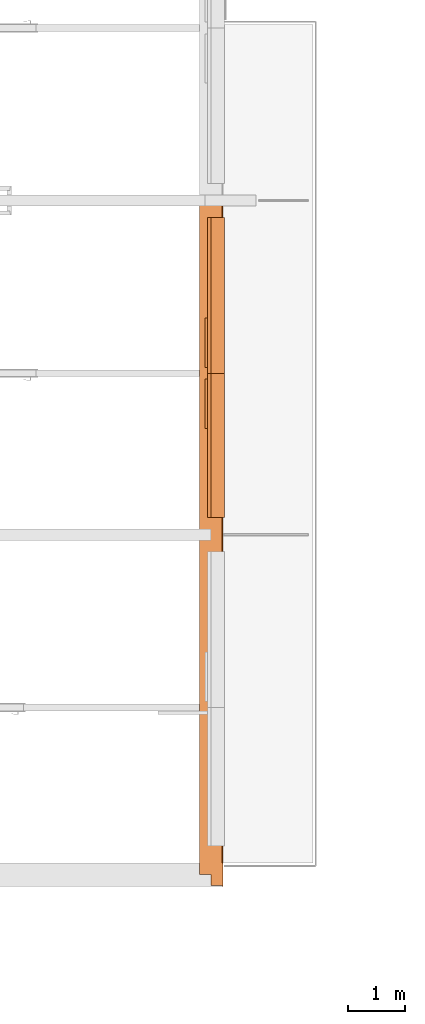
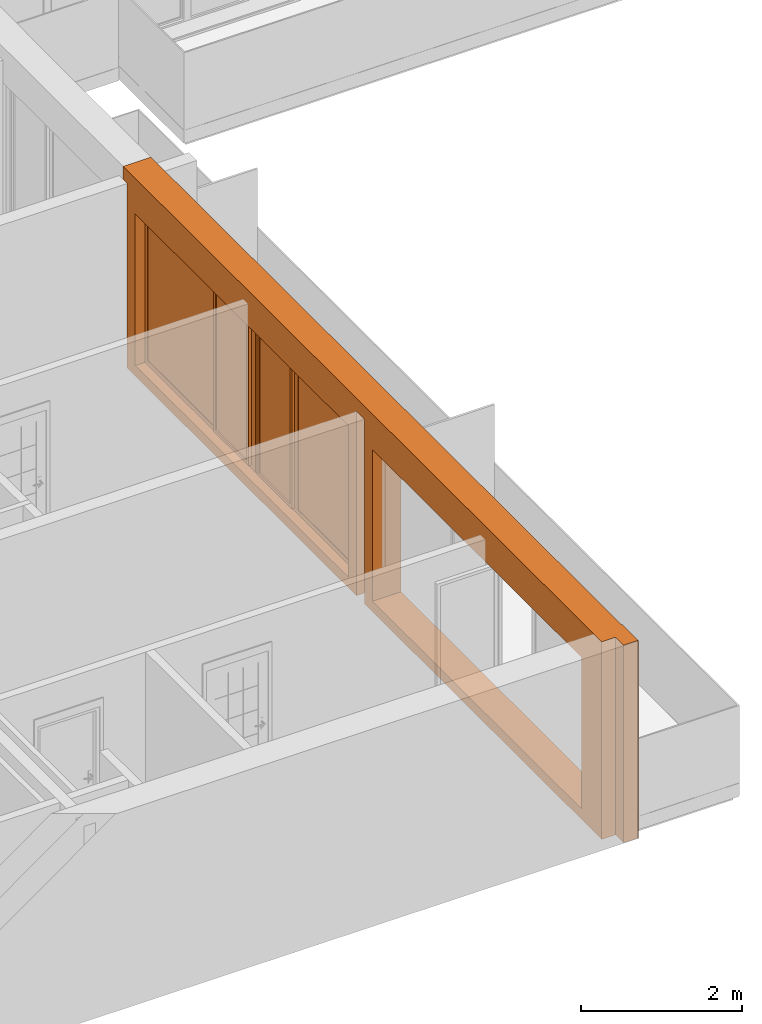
# One storey, part 44 of 64: 3 proxies, 4 openings.
"""IFC2X3 building model written with IfcOpenShell, lengths in millimetres."""

from ifc_helpers import new_model, entity, si_unit, converted_unit, derived_unit, money_unit, direction, frame, origin_with_axes, origin_2d_with_axis, place, context, subcontext, project, spatial, rectangle, extrude, open_shell, faceted_brep, surface_model, source, transform, mapped, material, material_list, type_object, element, fill, save


model = new_model("IFC2X3")

# Units and contexts
model_context = context("Model", 3, precision=0.01, world=origin_with_axes(), true_north=direction((0.34421633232, 0.938890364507)))
body_context = subcontext(model_context, "Body", "Model", "MODEL_VIEW")
ifc_project = project(units=[si_unit("LENGTHUNIT", "METRE", prefix="MILLI"), si_unit("AREAUNIT", "SQUARE_METRE"), si_unit("VOLUMEUNIT", "CUBIC_METRE"), converted_unit("PLANEANGLEUNIT", "DEGREE", entity("IfcPlaneAngleMeasure", 0.0174532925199), si_unit("PLANEANGLEUNIT", "RADIAN"), dimensions=[0, 0, 0, 0, 0, 0, 0]), si_unit("SOLIDANGLEUNIT", "STERADIAN"), money_unit("USD"), converted_unit("TIMEUNIT", "Year", entity("IfcTimeMeasure", 31556926.0), si_unit("TIMEUNIT", "SECOND"), dimensions=[0, 0, 1, 0, 0, 0, 0]), si_unit("MASSUNIT", "GRAM", prefix="KILO"), si_unit("THERMODYNAMICTEMPERATUREUNIT", "DEGREE_CELSIUS"), si_unit("LUMINOUSINTENSITYUNIT", "LUMEN"), si_unit("ENERGYUNIT", "JOULE", prefix="MEGA"), derived_unit("THERMALCONDUCTANCEUNIT", [(si_unit("POWERUNIT", "WATT"), 1), (si_unit("LENGTHUNIT", "METRE"), -1), (si_unit("THERMODYNAMICTEMPERATUREUNIT", "KELVIN"), -1)]), derived_unit("SPECIFICHEATCAPACITYUNIT", [(si_unit("ENERGYUNIT", "JOULE"), 1), (si_unit("MASSUNIT", "GRAM", prefix="KILO"), -1), (si_unit("THERMODYNAMICTEMPERATUREUNIT", "KELVIN"), -1)]), derived_unit("MASSDENSITYUNIT", [(si_unit("MASSUNIT", "GRAM", prefix="KILO"), 1), (si_unit("VOLUMEUNIT", "CUBIC_METRE"), -1)])], contexts=[model_context])

# Site, building, storey
site_placement = place(None, origin_with_axes())
site = spatial("IfcSite", under=ifc_project, at=site_placement, Name="USTRONIE MORSKIE", CompositionType="ELEMENT")
building_placement = place(site_placement, origin_with_axes())
building = spatial("IfcBuilding", under=site, at=building_placement, Name="Budynek", CompositionType="ELEMENT")
storey_placement = place(building_placement, frame((0.0, 0.0, 7000.0), z_axis=(0.0, 0.0, 1.0), x_axis=(1.0, 0.0, 0.0)))
storey = spatial("IfcBuildingStorey", under=building, at=storey_placement, Name="PIĘTRO 2", CompositionType="ELEMENT", Elevation=7000.0)

# Proxies, openings
ifc_material_1 = material(Name="Beton konstrukcyjny B25")
ifc_material_2 = material(Name="Wełna ELEW")
ifc_material_3 = material(Name="Tynk zewnętrzny")
ifc_material_list = material_list([ifc_material_1, ifc_material_2, ifc_material_3])
building_element_proxy_type_1 = type_object("IfcBuildingElementProxyType", Name="20+20 410", PredefinedType="NOTDEFINED")
proxy_1_placement = place(storey_placement, frame((367067.957311, 709201.199036, -160.0), z_axis=(0.0, 0.0, 1.0), x_axis=(-2.10080135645e-06, 0.999999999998, 0.0)))
proxy_1 = element("IfcBuildingElementProxy", 1, at=proxy_1_placement, inside=storey, type_object=building_element_proxy_type_1, material=ifc_material_list, Name="SZ-01", context=body_context, shape_type="Brep", body=[
    faceted_brep([(5799.99975733, -100.0, 0.0), (5799.99975733, -100.0, 2800.0), (5999.99975734, -100.0, 2800.0), (5999.99975734, -100.0, 0.0), (11699.9997899, -100.0, 0.0), (11699.9997899, -100.0, 2800.0), (11800.0, -100.0, 2800.0), (11800.0, -100.0, 3000.0), (-100.00021008, -100.0, 3000.0), (-100.00021008, -100.0, 0.0), (5800.0001775, 100.0, 0.0), (5800.0001775, 100.0, 2800.0), (6000.0001775, 100.0, 2800.0), (6000.0001775, 100.0, 0.0), (11700.0002101, 100.0, 0.0), (11700.0, 7.00267150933e-05, 0.0), (11700.0, 7.00267150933e-05, 2800.0), (11800.0, 7.00267150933e-05, 2800.0), (11800.0, 100.0, 2800.0), (11800.0, 100.0, 3000.0), (-99.99978992, 100.0, 3000.0), (-99.99978992, 100.0, 0.0), (11700.0002101, 100.0, 2800.0)], [[[0, 1, 2, 3, 4, 5, 6, 7, 8, 9]], [[1, 0, 10, 11]], [[2, 1, 11, 12]], [[3, 2, 12, 13]], [[3, 13, 14, 15, 4]], [[5, 4, 15, 16]], [[17, 6, 5, 16]], [[17, 18, 19, 7, 6]], [[8, 7, 19, 20]], [[9, 8, 20, 21]], [[10, 0, 9, 21]], [[11, 10, 21, 20, 19, 18, 22, 14, 13, 12]], [[15, 14, 22, 16]], [[18, 17, 16, 22]]]),
    faceted_brep([(-300.000630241, -300.0, 0.0), (11699.9993698, -300.0, 0.0), (11699.9993698, -300.0, 2800.0), (11800.0, -300.0, 2800.0), (11800.0, -300.0, 3000.0), (-300.000630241, -300.0, 3000.0), (-300.000210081, -100.0, 0.0), (11699.9997899, -100.0, 0.0), (11699.9997899, -100.0, 2800.0), (11800.0, -100.0, 2800.0), (11800.0, -100.0, 3000.0), (-300.000210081, -100.0, 3000.0)], [[[0, 1, 2, 3, 4, 5]], [[6, 7, 1, 0]], [[8, 2, 1, 7]], [[8, 9, 3, 2]], [[4, 3, 9, 10]], [[11, 5, 4, 10]], [[6, 0, 5, 11]], [[9, 8, 7, 6, 11, 10]]]),
    faceted_brep([(11699.9993488, -310.0, 2800.0), (99.9993487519, -310.0, 2800.0), (99.9993487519, -310.0, 3000.0), (-310.000651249, -310.0, 3000.0), (-310.000651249, -310.0, 0.0), (99.9993487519, -310.0, 0.0), (99.9993487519, -310.0, 5.0), (99.9993487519, -310.0, 85.0), (99.9993487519, -310.0, 110.0), (11699.9993488, -310.0, 110.0), (11699.9993698, -300.000632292, 2800.0), (99.999369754, -300.00281711, 2800.0), (99.999369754, -300.00281711, 3000.0), (-310.000630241, -300.0, 3000.0), (-310.000630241, -300.0, 0.0), (99.9993697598, -300.000048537, 0.0), (99.9993697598, -300.000048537, 5.0), (99.9993697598, -300.000048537, 85.0), (99.9993697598, -300.000048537, 110.0), (11699.9993698, -299.997863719, 110.0)], [[[0, 1, 2, 3, 4, 5, 6, 7, 8, 9]], [[1, 0, 10, 11]], [[12, 2, 1, 11]], [[2, 12, 13, 3]], [[14, 4, 3, 13]], [[15, 5, 4, 14]], [[16, 6, 5, 15]], [[17, 7, 6, 16]], [[8, 7, 17, 18]], [[9, 8, 18, 19]], [[10, 0, 9, 19]], [[11, 10, 19, 18, 17, 16, 15, 14, 13, 12]]]),
])
opening_1_placement = place(proxy_1_placement, frame((10124.9903356, 1.13686837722e-10, 160.0), z_axis=(0.0, 0.0, 1.0), x_axis=(1.0, 0.0, 0.0)))
opening_1 = element("IfcOpeningElement", 2, at=opening_1_placement, cuts=proxy_1, Name="Wz.05", context=body_context, shape_type="SweptSolid", body=[
    extrude(rectangle(XDim=2749.94323081, YDim=2300.0, at=origin_2d_with_axis()), frame((0.0, -100.0, 1150.0), z_axis=(0.0, -1.0, 0.0), x_axis=(-1.0, 0.0, 0.0)), (0.0, 0.0, 1.0), 620.0),
    extrude(rectangle(XDim=2749.94323081, YDim=2300.0, at=origin_2d_with_axis()), frame((-1.13686837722e-10, -100.0, 1150.0), z_axis=(0.0, 1.0, 0.0), x_axis=(-1.0, 0.0, 0.0)), (0.0, 0.0, 1.0), 610.0),
])
opening_2_placement = place(proxy_1_placement, frame((7475.0069156, 1.13686837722e-10, 160.0), z_axis=(0.0, 0.0, 1.0), x_axis=(1.0, 0.0, 0.0)))
opening_2 = element("IfcOpeningElement", 3, at=opening_2_placement, cuts=proxy_1, Name="Wz.05", context=body_context, shape_type="SweptSolid", body=[
    extrude(rectangle(XDim=2550.02360912, YDim=2300.0, at=origin_2d_with_axis()), frame((-1.13686837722e-10, -100.0, 1150.0), z_axis=(0.0, 1.0, 0.0), x_axis=(1.0, 0.0, 0.0)), (0.0, 0.0, -1.0), 620.0),
    extrude(rectangle(XDim=2550.02360912, YDim=2300.0, at=origin_2d_with_axis()), frame((-1.13686837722e-10, -100.0, 1150.0), z_axis=(0.0, -1.0, 0.0), x_axis=(1.0, 0.0, 0.0)), (0.0, 0.0, -1.0), 610.0),
])
opening_3_placement = place(proxy_1_placement, frame((4225.01241069, 1.13686837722e-10, 160.0), z_axis=(0.0, 0.0, 1.0), x_axis=(1.0, 0.0, 0.0)))
element("IfcOpeningElement", 4, at=opening_3_placement, cuts=proxy_1, Name="Wz.05", context=body_context, shape_type="SweptSolid", body=[
    extrude(rectangle(XDim=2749.98566828, YDim=2300.0, at=origin_2d_with_axis()), frame((2.27373675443e-10, -100.0, 1150.0), z_axis=(0.0, -1.0, 0.0), x_axis=(-1.0, 0.0, 0.0)), (0.0, 0.0, 1.0), 620.0),
    extrude(rectangle(XDim=2749.98566828, YDim=2300.0, at=origin_2d_with_axis()), frame((1.13686837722e-10, -100.0, 1150.0), z_axis=(0.0, 1.0, 0.0), x_axis=(-1.0, 0.0, 0.0)), (0.0, 0.0, 1.0), 610.0),
])
opening_4_placement = place(proxy_1_placement, frame((1625.00742279, 1.13686837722e-10, 160.0), z_axis=(0.0, 0.0, 1.0), x_axis=(1.0, 0.0, 0.0)))
element("IfcOpeningElement", 5, at=opening_4_placement, cuts=proxy_1, Name="Wz.05", context=body_context, shape_type="SweptSolid", body=[
    extrude(rectangle(XDim=2450.02430751, YDim=2300.0, at=origin_2d_with_axis()), frame((0.0, -100.0, 1150.0), z_axis=(0.0, 1.0, 0.0), x_axis=(1.0, 0.0, 0.0)), (0.0, 0.0, -1.0), 620.0),
    extrude(rectangle(XDim=2450.02430751, YDim=2300.0, at=origin_2d_with_axis()), frame((0.0, -100.0, 1150.0), z_axis=(0.0, -1.0, 0.0), x_axis=(1.0, 0.0, 0.0)), (0.0, 0.0, -1.0), 610.0),
])
building_element_proxy_type_2 = type_object("IfcBuildingElementProxyType", Name="Okno podwójne 23", PredefinedType="NOTDEFINED")
shared_shape_1 = source(origin_with_axes(), body_context, "Body", "SurfaceModel", [
    surface_model("IfcShellBasedSurfaceModel", [(1374.9716154, -61.0, 50.0), (-1374.9716154, -61.0, 50.0), (-1374.9716154, -61.0, 40.0), (1374.9716154, -61.0, 40.0), (-1374.9716154, -300.0, 28.5714285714), (1374.9716154, -300.0, 28.5714285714), (-1374.9716154, -300.0, 8.57142857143), (1374.9716154, -300.0, 8.57142857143), (-1374.9716154, -290.0, 18.5714285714), (1374.9716154, -290.0, 18.5714285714)], [open_shell([[[0, 1, 2, 3]], [[3, 2, 4, 5]], [[5, 4, 6, 7]], [[7, 6, 8, 9]]])]),
    faceted_brep([(-1249.9716154, -20.0, 2235.0), (-1269.9716154, -20.0, 2235.0), (-1269.9716154, 0.0, 2235.0), (-1374.9716154, 0.0, 2235.0), (-1374.9716154, -60.0, 2235.0), (-1249.9716154, -60.0, 2235.0), (-1249.9716154, -20.0, 65.0), (-1269.9716154, -20.0, 65.0), (-1269.9716154, 0.0, 65.0), (-1374.9716154, 0.0, 65.0), (-1374.9716154, -60.0, 65.0), (-1249.9716154, -60.0, 65.0)], [[[0, 1, 2, 3, 4, 5]], [[1, 0, 6, 7]], [[8, 2, 1, 7]], [[2, 8, 9, 3]], [[9, 10, 4, 3]], [[10, 11, 5, 4]], [[6, 0, 5, 11]], [[7, 6, 11, 10, 9, 8]]]),
    faceted_brep([(-399.971615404, 0.0, 2235.0), (-399.971615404, -20.0, 2235.0), (-419.971615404, -20.0, 2235.0), (-419.971615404, -60.0, 2235.0), (-319.971615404, -60.0, 2235.0), (-319.971615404, 0.0, 2235.0), (-399.971615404, 0.0, 65.0), (-399.971615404, -20.0, 65.0), (-419.971615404, -20.0, 65.0), (-419.971615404, -60.0, 65.0), (-319.971615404, -60.0, 65.0), (-319.971615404, 0.0, 65.0)], [[[0, 1, 2, 3, 4, 5]], [[1, 0, 6, 7]], [[8, 2, 1, 7]], [[2, 8, 9, 3]], [[9, 10, 4, 3]], [[5, 4, 10, 11]], [[6, 0, 5, 11]], [[7, 6, 11, 10, 9, 8]]]),
    faceted_brep([(-1249.9716154, -20.0, 65.0), (-1269.9716154, -20.0, 65.0), (-1269.9716154, 0.0, 65.0), (-1374.9716154, 0.0, 65.0), (-1374.9716154, -60.0, 65.0), (-1249.9716154, -60.0, 65.0), (-419.971615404, -20.0, 65.0), (-399.971615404, -20.0, 65.0), (-399.971615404, -20.0, 45.0), (-1269.9716154, -20.0, 45.0), (-1269.9716154, 0.0, 45.0), (-399.971615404, 0.0, 45.0), (-399.971615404, 0.0, 65.0), (-319.971615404, 0.0, 65.0), (1309.9716154, 0.0, 65.0), (1374.9716154, 0.0, 65.0), (1374.9716154, 0.0, 0.0), (-1374.9716154, 0.0, 0.0), (-1374.9716154, -60.0, 0.0), (1374.9716154, -60.0, 65.0), (1309.9716154, -60.0, 65.0), (-319.971615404, -60.0, 65.0), (-419.971615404, -60.0, 65.0), (1374.9716154, -60.0, 0.0)], [[[0, 1, 2, 3, 4, 5]], [[1, 0, 6, 7, 8, 9]], [[10, 2, 1, 9]], [[11, 12, 13, 14, 15, 16, 17, 3, 2, 10]], [[17, 18, 4, 3]], [[19, 20, 21, 22, 5, 4, 18, 23]], [[6, 0, 5, 22]], [[7, 6, 22, 21, 13, 12]], [[7, 12, 11, 8]], [[11, 10, 9, 8]], [[13, 21, 20, 14]], [[14, 20, 19, 15]], [[15, 19, 23, 16]], [[16, 23, 18, 17]]]),
    faceted_brep([(-399.971615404, 0.0, 2235.0), (-399.971615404, 0.0, 2255.0), (-1269.9716154, 0.0, 2255.0), (-1269.9716154, 0.0, 2235.0), (-1374.9716154, 0.0, 2235.0), (-1374.9716154, 0.0, 2300.0), (1374.9716154, 0.0, 2300.0), (1374.9716154, 0.0, 2235.0), (1309.9716154, 0.0, 2235.0), (-319.971615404, 0.0, 2235.0), (-399.971615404, -20.0, 2235.0), (-399.971615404, -20.0, 2255.0), (-1269.9716154, -20.0, 2255.0), (-1269.9716154, -20.0, 2235.0), (-1249.9716154, -20.0, 2235.0), (-1249.9716154, -60.0, 2235.0), (-1374.9716154, -60.0, 2235.0), (-1374.9716154, -60.0, 2300.0), (1374.9716154, -60.0, 2300.0), (1374.9716154, -60.0, 2235.0), (1309.9716154, -60.0, 2235.0), (-319.971615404, -60.0, 2235.0), (-419.971615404, -60.0, 2235.0), (-419.971615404, -20.0, 2235.0)], [[[0, 1, 2, 3, 4, 5, 6, 7, 8, 9]], [[1, 0, 10, 11]], [[2, 1, 11, 12]], [[3, 2, 12, 13]], [[13, 14, 15, 16, 4, 3]], [[4, 16, 17, 5]], [[5, 17, 18, 6]], [[6, 18, 19, 7]], [[7, 19, 20, 8]], [[8, 20, 21, 9]], [[10, 0, 9, 21, 22, 23]], [[14, 13, 12, 11, 10, 23]], [[14, 23, 22, 15]], [[22, 21, 20, 19, 18, 17, 16, 15]]]),
    faceted_brep([(1309.9716154, -60.0, 2235.0), (1374.9716154, -60.0, 2235.0), (1374.9716154, 0.0, 2235.0), (1309.9716154, 0.0, 2235.0), (1309.9716154, -60.0, 65.0), (1374.9716154, -60.0, 65.0), (1374.9716154, 0.0, 65.0), (1309.9716154, 0.0, 65.0)], [[[0, 1, 2, 3]], [[0, 4, 5, 1]], [[1, 5, 6, 2]], [[3, 2, 6, 7]], [[4, 0, 3, 7]], [[5, 4, 7, 6]]]),
    surface_model("IfcShellBasedSurfaceModel", [(1309.9716154, -30.0, 65.0), (1309.9716154, -30.0, 2235.0), (-319.971615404, -30.0, 2235.0), (-319.971615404, -30.0, 65.0)], [open_shell([[[0, 1, 2, 3]]])]),
    surface_model("IfcShellBasedSurfaceModel", [(1309.9716154, -10.0, 65.0), (-319.971615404, -10.0, 65.0), (-319.971615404, -10.0, 2235.0), (1309.9716154, -10.0, 2235.0)], [open_shell([[[0, 1, 2, 3]]])]),
    faceted_brep([(-444.971615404, -20.0, 2210.0), (-399.971615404, -20.0, 2210.0), (-399.971615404, 40.0, 2210.0), (-444.971615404, 40.0, 2210.0), (-444.971615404, -20.0, 90.0), (-399.971615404, -20.0, 90.0), (-399.971615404, 40.0, 90.0), (-444.971615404, 40.0, 90.0)], [[[0, 1, 2, 3]], [[0, 4, 5, 1]], [[1, 5, 6, 2]], [[3, 2, 6, 7]], [[4, 0, 3, 7]], [[5, 4, 7, 6]]]),
    faceted_brep([(-1224.9716154, -20.0, 90.0), (-1269.9716154, -20.0, 90.0), (-1269.9716154, 40.0, 90.0), (-1224.9716154, 40.0, 90.0), (-1224.9716154, -20.0, 2210.0), (-1269.9716154, -20.0, 2210.0), (-1269.9716154, 40.0, 2210.0), (-1224.9716154, 40.0, 2210.0)], [[[0, 1, 2, 3]], [[0, 4, 5, 1]], [[1, 5, 6, 2]], [[3, 2, 6, 7]], [[4, 0, 3, 7]], [[5, 4, 7, 6]]]),
    faceted_brep([(-1269.9716154, -20.0, 45.0), (-1269.9716154, -20.0, 90.0), (-1269.9716154, 40.0, 90.0), (-1269.9716154, 40.0, 45.0), (-399.971615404, -20.0, 45.0), (-399.971615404, -20.0, 90.0), (-444.971615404, -20.0, 90.0), (-1224.9716154, -20.0, 90.0), (-1224.9716154, 40.0, 90.0), (-444.971615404, 40.0, 90.0), (-399.971615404, 40.0, 90.0), (-399.971615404, 40.0, 45.0)], [[[0, 1, 2, 3]], [[0, 4, 5, 6, 7, 1]], [[1, 7, 8, 2]], [[3, 2, 8, 9, 10, 11]], [[4, 0, 3, 11]], [[5, 4, 11, 10]], [[6, 5, 10, 9]], [[7, 6, 9, 8]]]),
    faceted_brep([(-399.971615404, -20.0, 2255.0), (-399.971615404, -20.0, 2210.0), (-399.971615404, 40.0, 2210.0), (-399.971615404, 40.0, 2255.0), (-1269.9716154, -20.0, 2255.0), (-1269.9716154, -20.0, 2210.0), (-1224.9716154, -20.0, 2210.0), (-444.971615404, -20.0, 2210.0), (-444.971615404, 40.0, 2210.0), (-1224.9716154, 40.0, 2210.0), (-1269.9716154, 40.0, 2210.0), (-1269.9716154, 40.0, 2255.0)], [[[0, 1, 2, 3]], [[0, 4, 5, 6, 7, 1]], [[1, 7, 8, 2]], [[3, 2, 8, 9, 10, 11]], [[4, 0, 3, 11]], [[5, 4, 11, 10]], [[6, 5, 10, 9]], [[7, 6, 9, 8]]]),
    surface_model("IfcShellBasedSurfaceModel", [(-444.971615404, 0.0, 90.0), (-444.971615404, 0.0, 2210.0), (-1224.9716154, 0.0, 2210.0), (-1224.9716154, 0.0, 90.0)], [open_shell([[[0, 1, 2, 3]]])]),
    surface_model("IfcShellBasedSurfaceModel", [(-444.971615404, 20.0, 90.0), (-1224.9716154, 20.0, 90.0), (-1224.9716154, 20.0, 2210.0), (-444.971615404, 20.0, 2210.0)], [open_shell([[[0, 1, 2, 3]]])]),
])
proxy_2_placement = place(opening_1_placement, frame((-1374.9716154, -1.13686837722e-10, 0.0), z_axis=(0.0, 0.0, 1.0), x_axis=(1.0, 0.0, 0.0)))
proxy_2 = element("IfcBuildingElementProxy", 6, at=proxy_2_placement, inside=storey, type_object=building_element_proxy_type_2, Name="Wz.05", context=body_context, shape_type="MappedRepresentation", body=[
    mapped(shared_shape_1, transform((1374.9716154, -40.0000000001, 0.0))),
])
fill(opening_1, proxy_2)
shared_shape_2 = source(origin_with_axes(), body_context, "Body", "SurfaceModel", [
    surface_model("IfcShellBasedSurfaceModel", [(-1275.01180456, -61.0, 50.0), (-1275.01180456, -61.0, 40.0), (1275.01180456, -61.0, 40.0), (1275.01180456, -61.0, 50.0), (-1275.01180456, -300.0, 28.5714285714), (1275.01180456, -300.0, 28.5714285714), (-1275.01180456, -300.0, 8.57142857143), (1275.01180456, -300.0, 8.57142857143), (-1275.01180456, -290.0, 18.5714285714), (1275.01180456, -290.0, 18.5714285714)], [open_shell([[[0, 1, 2, 3]], [[1, 4, 5, 2]], [[4, 6, 7, 5]], [[6, 8, 9, 7]]])]),
    faceted_brep([(1150.01180456, -20.0, 2235.0), (1150.01180456, -60.0, 2235.0), (1275.01180456, -60.0, 2235.0), (1275.01180456, 0.0, 2235.0), (1170.01180456, 0.0, 2235.0), (1170.01180456, -20.0, 2235.0), (1150.01180456, -20.0, 65.0), (1150.01180456, -60.0, 65.0), (1275.01180456, -60.0, 65.0), (1275.01180456, 0.0, 65.0), (1170.01180456, 0.0, 65.0), (1170.01180456, -20.0, 65.0)], [[[0, 1, 2, 3, 4, 5]], [[6, 7, 1, 0]], [[8, 2, 1, 7]], [[9, 3, 2, 8]], [[4, 3, 9, 10]], [[10, 11, 5, 4]], [[5, 11, 6, 0]], [[11, 10, 9, 8, 7, 6]]]),
    faceted_brep([(300.01180456, 0.0, 2235.0), (220.01180456, 0.0, 2235.0), (220.01180456, -60.0, 2235.0), (320.01180456, -60.0, 2235.0), (320.01180456, -20.0, 2235.0), (300.01180456, -20.0, 2235.0), (300.01180456, 0.0, 65.0), (220.01180456, 0.0, 65.0), (220.01180456, -60.0, 65.0), (320.01180456, -60.0, 65.0), (320.01180456, -20.0, 65.0), (300.01180456, -20.0, 65.0)], [[[0, 1, 2, 3, 4, 5]], [[6, 7, 1, 0]], [[1, 7, 8, 2]], [[9, 3, 2, 8]], [[4, 3, 9, 10]], [[10, 11, 5, 4]], [[5, 11, 6, 0]], [[11, 10, 9, 8, 7, 6]]]),
    faceted_brep([(1150.01180456, -20.0, 65.0), (1150.01180456, -60.0, 65.0), (1275.01180456, -60.0, 65.0), (1275.01180456, 0.0, 65.0), (1170.01180456, 0.0, 65.0), (1170.01180456, -20.0, 65.0), (320.01180456, -20.0, 65.0), (320.01180456, -60.0, 65.0), (-1275.01180456, -60.0, 65.0), (-1275.01180456, -60.0, 0.0), (1275.01180456, -60.0, 0.0), (220.01180456, -60.0, 65.0), (-1210.01180456, -60.0, 65.0), (1275.01180456, 0.0, 0.0), (300.01180456, 0.0, 45.0), (1170.01180456, 0.0, 45.0), (-1275.01180456, 0.0, 0.0), (-1275.01180456, 0.0, 65.0), (-1210.01180456, 0.0, 65.0), (220.01180456, 0.0, 65.0), (300.01180456, 0.0, 65.0), (1170.01180456, -20.0, 45.0), (300.01180456, -20.0, 45.0), (300.01180456, -20.0, 65.0)], [[[0, 1, 2, 3, 4, 5]], [[6, 7, 1, 0]], [[8, 9, 10, 2, 1, 7, 11, 12]], [[13, 3, 2, 10]], [[14, 15, 4, 3, 13, 16, 17, 18, 19, 20]], [[15, 21, 5, 4]], [[5, 21, 22, 23, 6, 0]], [[23, 20, 19, 11, 7, 6]], [[17, 16, 9, 8]], [[16, 13, 10, 9]], [[19, 18, 12, 11]], [[18, 17, 8, 12]], [[14, 22, 21, 15]], [[23, 22, 14, 20]]]),
    faceted_brep([(300.01180456, 0.0, 2235.0), (220.01180456, 0.0, 2235.0), (-1210.01180456, 0.0, 2235.0), (-1275.01180456, 0.0, 2235.0), (-1275.01180456, 0.0, 2300.0), (1275.01180456, 0.0, 2300.0), (1275.01180456, 0.0, 2235.0), (1170.01180456, 0.0, 2235.0), (1170.01180456, 0.0, 2255.0), (300.01180456, 0.0, 2255.0), (300.01180456, -20.0, 2235.0), (320.01180456, -20.0, 2235.0), (320.01180456, -60.0, 2235.0), (220.01180456, -60.0, 2235.0), (-1210.01180456, -60.0, 2235.0), (-1275.01180456, -60.0, 2235.0), (-1275.01180456, -60.0, 2300.0), (1275.01180456, -60.0, 2300.0), (1275.01180456, -60.0, 2235.0), (1170.01180456, -20.0, 2235.0), (1150.01180456, -60.0, 2235.0), (1150.01180456, -20.0, 2235.0), (1170.01180456, -20.0, 2255.0), (300.01180456, -20.0, 2255.0)], [[[0, 1, 2, 3, 4, 5, 6, 7, 8, 9]], [[10, 11, 12, 13, 1, 0]], [[2, 1, 13, 14]], [[3, 2, 14, 15]], [[4, 3, 15, 16]], [[5, 4, 16, 17]], [[6, 5, 17, 18]], [[19, 7, 6, 18, 20, 21]], [[7, 19, 22, 8]], [[8, 22, 23, 9]], [[9, 23, 10, 0]], [[21, 11, 10, 23, 22, 19]], [[21, 20, 12, 11]], [[12, 20, 18, 17, 16, 15, 14, 13]]]),
    faceted_brep([(-1210.01180456, -60.0, 2235.0), (-1210.01180456, 0.0, 2235.0), (-1275.01180456, 0.0, 2235.0), (-1275.01180456, -60.0, 2235.0), (-1210.01180456, -60.0, 65.0), (-1210.01180456, 0.0, 65.0), (-1275.01180456, 0.0, 65.0), (-1275.01180456, -60.0, 65.0)], [[[0, 1, 2, 3]], [[4, 5, 1, 0]], [[1, 5, 6, 2]], [[3, 2, 6, 7]], [[0, 3, 7, 4]], [[7, 6, 5, 4]]]),
    surface_model("IfcShellBasedSurfaceModel", [(-1210.01180456, -30.0, 65.0), (220.01180456, -30.0, 65.0), (220.01180456, -30.0, 2235.0), (-1210.01180456, -30.0, 2235.0)], [open_shell([[[0, 1, 2, 3]]])]),
    surface_model("IfcShellBasedSurfaceModel", [(-1210.01180456, -10.0, 65.0), (-1210.01180456, -10.0, 2235.0), (220.01180456, -10.0, 2235.0), (220.01180456, -10.0, 65.0)], [open_shell([[[0, 1, 2, 3]]])]),
    faceted_brep([(345.01180456, -20.0, 2210.0), (345.01180456, 40.0, 2210.0), (300.01180456, 40.0, 2210.0), (300.01180456, -20.0, 2210.0), (345.01180456, -20.0, 90.0), (345.01180456, 40.0, 90.0), (300.01180456, 40.0, 90.0), (300.01180456, -20.0, 90.0)], [[[0, 1, 2, 3]], [[4, 5, 1, 0]], [[1, 5, 6, 2]], [[3, 2, 6, 7]], [[0, 3, 7, 4]], [[7, 6, 5, 4]]]),
    faceted_brep([(1125.01180456, -20.0, 90.0), (1125.01180456, 40.0, 90.0), (1170.01180456, 40.0, 90.0), (1170.01180456, -20.0, 90.0), (1125.01180456, -20.0, 2210.0), (1125.01180456, 40.0, 2210.0), (1170.01180456, 40.0, 2210.0), (1170.01180456, -20.0, 2210.0)], [[[0, 1, 2, 3]], [[4, 5, 1, 0]], [[1, 5, 6, 2]], [[3, 2, 6, 7]], [[0, 3, 7, 4]], [[7, 6, 5, 4]]]),
    faceted_brep([(1170.01180456, -20.0, 45.0), (1170.01180456, 40.0, 45.0), (1170.01180456, 40.0, 90.0), (1170.01180456, -20.0, 90.0), (300.01180456, -20.0, 45.0), (300.01180456, 40.0, 45.0), (300.01180456, 40.0, 90.0), (345.01180456, 40.0, 90.0), (1125.01180456, 40.0, 90.0), (1125.01180456, -20.0, 90.0), (345.01180456, -20.0, 90.0), (300.01180456, -20.0, 90.0)], [[[0, 1, 2, 3]], [[4, 5, 1, 0]], [[1, 5, 6, 7, 8, 2]], [[3, 2, 8, 9]], [[0, 3, 9, 10, 11, 4]], [[11, 6, 5, 4]], [[10, 7, 6, 11]], [[9, 8, 7, 10]]]),
    faceted_brep([(300.01180456, -20.0, 2255.0), (300.01180456, 40.0, 2255.0), (300.01180456, 40.0, 2210.0), (300.01180456, -20.0, 2210.0), (1170.01180456, -20.0, 2255.0), (1170.01180456, 40.0, 2255.0), (1170.01180456, 40.0, 2210.0), (1125.01180456, 40.0, 2210.0), (345.01180456, 40.0, 2210.0), (345.01180456, -20.0, 2210.0), (1125.01180456, -20.0, 2210.0), (1170.01180456, -20.0, 2210.0)], [[[0, 1, 2, 3]], [[4, 5, 1, 0]], [[1, 5, 6, 7, 8, 2]], [[3, 2, 8, 9]], [[0, 3, 9, 10, 11, 4]], [[11, 6, 5, 4]], [[10, 7, 6, 11]], [[9, 8, 7, 10]]]),
    surface_model("IfcShellBasedSurfaceModel", [(345.01180456, 0.0, 90.0), (1125.01180456, 0.0, 90.0), (1125.01180456, 0.0, 2210.0), (345.01180456, 0.0, 2210.0)], [open_shell([[[0, 1, 2, 3]]])]),
    surface_model("IfcShellBasedSurfaceModel", [(345.01180456, 20.0, 90.0), (345.01180456, 20.0, 2210.0), (1125.01180456, 20.0, 2210.0), (1125.01180456, 20.0, 90.0)], [open_shell([[[0, 1, 2, 3]]])]),
])
proxy_3_placement = place(opening_2_placement, frame((-1275.01180456, 0.0, 0.0), z_axis=(0.0, 0.0, 1.0), x_axis=(1.0, 0.0, 0.0)))
proxy_3 = element("IfcBuildingElementProxy", 7, at=proxy_3_placement, inside=storey, type_object=building_element_proxy_type_2, Name="Wz.05", context=body_context, shape_type="MappedRepresentation", body=[
    mapped(shared_shape_2, transform((1275.01180456, -40.0, 0.0))),
])
fill(opening_2, proxy_3)

save(model, "model.ifc")
